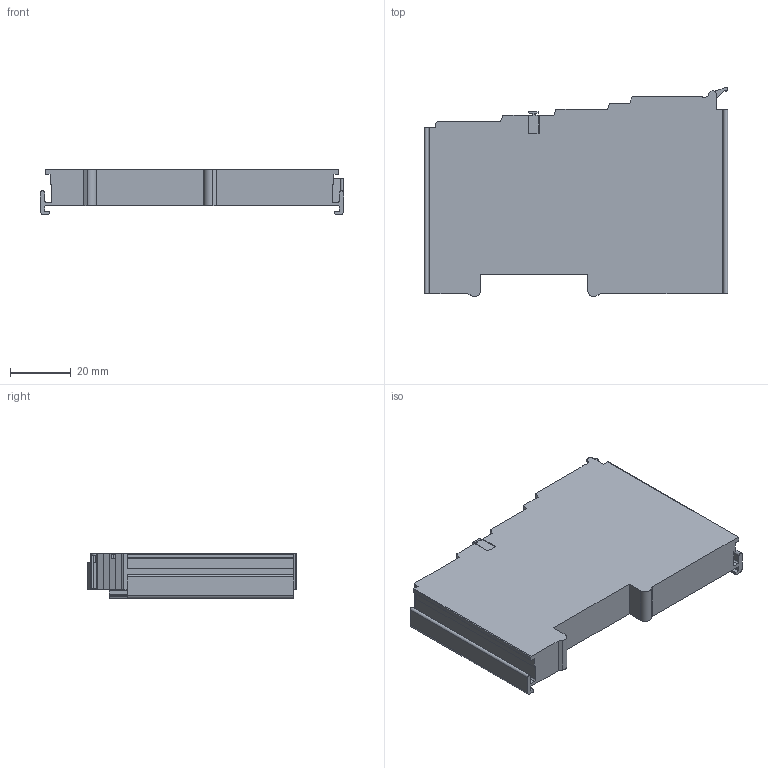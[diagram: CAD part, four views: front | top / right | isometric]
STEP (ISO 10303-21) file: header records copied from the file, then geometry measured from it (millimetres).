
FILE_DESCRIPTION( ( 'STEP AP214' ), '1' );
FILE_NAME( 'p:/temp/worker_47/temp/exporttempdir_3372_515_JbWYT/format_0/750-1504.stp', '2021-05-24T09:21:39', ( 'License CC BY-ND 4.0' ), ( 'CADENAS' ), ' ', 'PARTsolutions', ' ' );
FILE_SCHEMA( ( 'AUTOMOTIVE_DESIGN { 1 0 10303 214 1 1 1 1 }' ) );
Length unit declared in the file: millimetre
Products named in the file (1): _750-1504
Bounding box: 100 x 68.96 x 14.8 mm (x, y, z)
Volume: 66621.6 mm3; surface area: 18774.7 mm2
Topology: 1 solids, 1 shells, 252 faces, 640 edges, 416 vertices
Faces by surface type: plane 181, cylinder 55, cone 16
Full cylindrical faces by diameter (mm): 3.65 x16
Entity records: 9390 total; most frequent: CARTESIAN_POINT 1277, DIRECTION 1244, ORIENTED_EDGE 1216, EDGE_CURVE 608, LINE 478, VECTOR 478, VERTEX_POINT 416, AXIS2_PLACEMENT_3D 383
